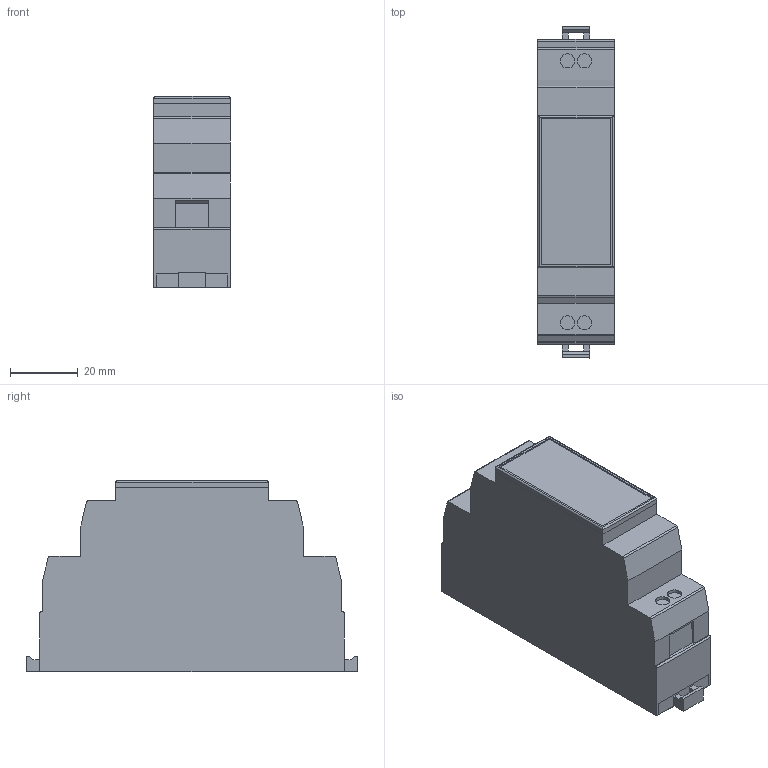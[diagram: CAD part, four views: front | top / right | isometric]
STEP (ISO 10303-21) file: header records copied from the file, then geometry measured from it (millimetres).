
FILE_DESCRIPTION(/* description */ ('Unknown'),/* implementation_level */ '2;1');
FILE_NAME(/* name */ 'HS_1-5DU',/* time_stamp */ '2025-12-11T14:31:56+01:00',/* author */ ('Unknown'),/* organization */ ('Unknown'),/* preprocessor_version */ 'ST-DEVELOPER v16.7',/* originating_system */ 'DEX',/* authorisation */ $);
FILE_SCHEMA (('AUTOMOTIVE_DESIGN {1 0 10303 214 3 1 1}'));
Length unit declared in the file: millimetre
Products named in the file (4): CEM22-V MO2397; 1765385155; 1765377975; 1765367062
Assembly tree (3 placements, depth 2):
  CEM22-V MO2397
    1765385155
    1765377975
    1765367062
Bounding box: 22.5 x 98 x 56.4 mm (x, y, z)
Volume: 106999.6 mm3; surface area: 23098.4 mm2
Topology: 3 solids, 3 shells, 217 faces, 565 edges, 364 vertices
Faces by surface type: plane 127, torus 66, cylinder 24
Full cylindrical faces by diameter (mm): 2 x2, 4.2 x4
Entity records: 6038 total; most frequent: CARTESIAN_POINT 1066, DIRECTION 1001, ORIENTED_EDGE 914, EDGE_CURVE 457, LINE 347, VECTOR 347, VERTEX_POINT 328, AXIS2_PLACEMENT_3D 327
